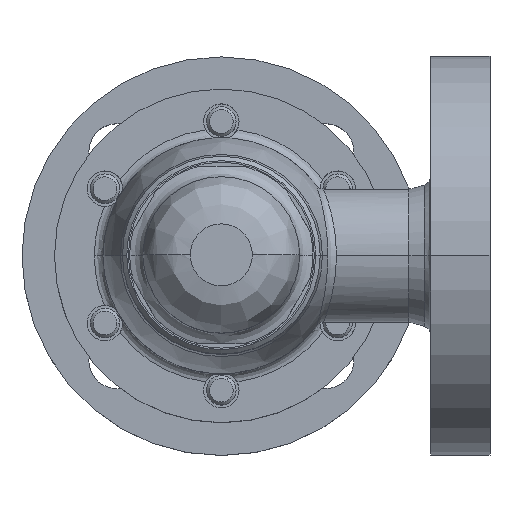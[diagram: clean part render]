
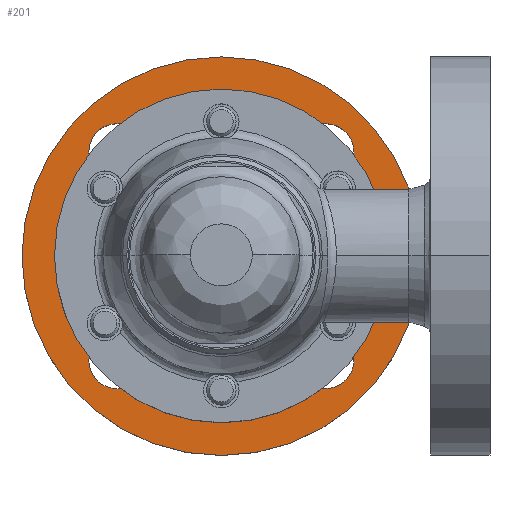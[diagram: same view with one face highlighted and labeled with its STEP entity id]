
A CAD part, top view. The second image highlights one B-rep face of the part: STEP entity #201.
In plain terms, the highlighted planar face has unit normal (0, 0, 1).
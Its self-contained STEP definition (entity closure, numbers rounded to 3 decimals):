
#201=ADVANCED_FACE('',(#424,#425,#426,#427,#428,#429),#423,.F.);
#423=PLANE('',#2034);
#424=FACE_OUTER_BOUND('',#2035,.T.);
#425=FACE_BOUND('',#2036,.T.);
#426=FACE_BOUND('',#2037,.T.);
#427=FACE_BOUND('',#2038,.T.);
#428=FACE_BOUND('',#2039,.T.);
#429=FACE_BOUND('',#2040,.T.);
#2031=CARTESIAN_POINT('',(145.,-126.913,-95.));
#2032=DIRECTION('',(0.,0.,-1.));
#2033=DIRECTION('',(-1.,0.,0.));
#2034=AXIS2_PLACEMENT_3D('',#2031,#2032,#2033);
#2035=EDGE_LOOP('',(#3370,#3371));
#2036=EDGE_LOOP('',(#3372,#3373));
#2037=EDGE_LOOP('',(#3374,#3375));
#2038=EDGE_LOOP('',(#3376,#3377));
#2039=EDGE_LOOP('',(#3378,#3379));
#2040=EDGE_LOOP('',(#3380,#3381));
#3370=ORIENTED_EDGE('',*,*,#4108,.F.);
#3371=ORIENTED_EDGE('',*,*,#4109,.F.);
#3372=ORIENTED_EDGE('',*,*,#4110,.T.);
#3373=ORIENTED_EDGE('',*,*,#4111,.T.);
#3374=ORIENTED_EDGE('',*,*,#4112,.T.);
#3375=ORIENTED_EDGE('',*,*,#4113,.T.);
#3376=ORIENTED_EDGE('',*,*,#4114,.T.);
#3377=ORIENTED_EDGE('',*,*,#4115,.T.);
#3378=ORIENTED_EDGE('',*,*,#4116,.T.);
#3379=ORIENTED_EDGE('',*,*,#4117,.T.);
#3380=ORIENTED_EDGE('',*,*,#4118,.T.);
#3381=ORIENTED_EDGE('',*,*,#4119,.T.);
#4108=EDGE_CURVE('',#4765,#4766,#4767,.T.);
#4109=EDGE_CURVE('',#4766,#4765,#4773,.T.);
#4110=EDGE_CURVE('',#4779,#4780,#4781,.T.);
#4111=EDGE_CURVE('',#4780,#4779,#4787,.T.);
#4112=EDGE_CURVE('',#4793,#4794,#4795,.T.);
#4113=EDGE_CURVE('',#4794,#4793,#4801,.T.);
#4114=EDGE_CURVE('',#4807,#4808,#4809,.T.);
#4115=EDGE_CURVE('',#4808,#4807,#4815,.T.);
#4116=EDGE_CURVE('',#4821,#4822,#4823,.T.);
#4117=EDGE_CURVE('',#4822,#4821,#4829,.T.);
#4118=EDGE_CURVE('',#4835,#4836,#4837,.T.);
#4119=EDGE_CURVE('',#4836,#4835,#4843,.T.);
#4765=VERTEX_POINT('',#7225);
#4766=VERTEX_POINT('',#7226);
#4767=CIRCLE('',#7230,67.5);
#4773=CIRCLE('',#7234,67.5);
#4779=VERTEX_POINT('',#7235);
#4780=VERTEX_POINT('',#7236);
#4781=CIRCLE('',#7240,9.5);
#4787=CIRCLE('',#7244,9.5);
#4793=VERTEX_POINT('',#7245);
#4794=VERTEX_POINT('',#7246);
#4795=CIRCLE('',#7250,9.5);
#4801=CIRCLE('',#7254,9.5);
#4807=VERTEX_POINT('',#7255);
#4808=VERTEX_POINT('',#7256);
#4809=CIRCLE('',#7260,9.5);
#4815=CIRCLE('',#7264,9.5);
#4821=VERTEX_POINT('',#7265);
#4822=VERTEX_POINT('',#7266);
#4823=CIRCLE('',#7270,9.5);
#4829=CIRCLE('',#7274,9.5);
#4835=VERTEX_POINT('',#7275);
#4836=VERTEX_POINT('',#7276);
#4837=CIRCLE('',#7280,31.302);
#4843=CIRCLE('',#7284,31.302);
#7225=CARTESIAN_POINT('',(67.5,0.,-95.));
#7226=CARTESIAN_POINT('',(-67.5,0.,-95.));
#7227=CARTESIAN_POINT('',(0.,0.,-95.));
#7228=DIRECTION('',(0.,0.,-1.));
#7229=DIRECTION('',(-1.,0.,0.));
#7230=AXIS2_PLACEMENT_3D('',#7227,#7228,#7229);
#7231=CARTESIAN_POINT('',(0.,0.,-95.));
#7232=DIRECTION('',(0.,0.,-1.));
#7233=DIRECTION('',(-1.,0.,0.));
#7234=AXIS2_PLACEMENT_3D('',#7231,#7232,#7233);
#7235=CARTESIAN_POINT('',(44.855,-35.355,-95.));
#7236=CARTESIAN_POINT('',(25.855,-35.355,-95.));
#7237=CARTESIAN_POINT('',(35.355,-35.355,-95.));
#7238=DIRECTION('',(0.,0.,-1.));
#7239=DIRECTION('',(1.,0.,0.));
#7240=AXIS2_PLACEMENT_3D('',#7237,#7238,#7239);
#7241=CARTESIAN_POINT('',(35.355,-35.355,-95.));
#7242=DIRECTION('',(0.,0.,-1.));
#7243=DIRECTION('',(1.,0.,0.));
#7244=AXIS2_PLACEMENT_3D('',#7241,#7242,#7243);
#7245=CARTESIAN_POINT('',(-25.855,-35.355,-95.));
#7246=CARTESIAN_POINT('',(-44.855,-35.355,-95.));
#7247=CARTESIAN_POINT('',(-35.355,-35.355,-95.));
#7248=DIRECTION('',(0.,0.,-1.));
#7249=DIRECTION('',(1.,0.,0.));
#7250=AXIS2_PLACEMENT_3D('',#7247,#7248,#7249);
#7251=CARTESIAN_POINT('',(-35.355,-35.355,-95.));
#7252=DIRECTION('',(0.,0.,-1.));
#7253=DIRECTION('',(1.,0.,0.));
#7254=AXIS2_PLACEMENT_3D('',#7251,#7252,#7253);
#7255=CARTESIAN_POINT('',(44.855,35.355,-95.));
#7256=CARTESIAN_POINT('',(25.855,35.355,-95.));
#7257=CARTESIAN_POINT('',(35.355,35.355,-95.));
#7258=DIRECTION('',(0.,0.,-1.));
#7259=DIRECTION('',(1.,0.,0.));
#7260=AXIS2_PLACEMENT_3D('',#7257,#7258,#7259);
#7261=CARTESIAN_POINT('',(35.355,35.355,-95.));
#7262=DIRECTION('',(0.,0.,-1.));
#7263=DIRECTION('',(1.,0.,0.));
#7264=AXIS2_PLACEMENT_3D('',#7261,#7262,#7263);
#7265=CARTESIAN_POINT('',(-25.855,35.355,-95.));
#7266=CARTESIAN_POINT('',(-44.855,35.355,-95.));
#7267=CARTESIAN_POINT('',(-35.355,35.355,-95.));
#7268=DIRECTION('',(0.,0.,-1.));
#7269=DIRECTION('',(1.,0.,0.));
#7270=AXIS2_PLACEMENT_3D('',#7267,#7268,#7269);
#7271=CARTESIAN_POINT('',(-35.355,35.355,-95.));
#7272=DIRECTION('',(0.,0.,-1.));
#7273=DIRECTION('',(1.,0.,0.));
#7274=AXIS2_PLACEMENT_3D('',#7271,#7272,#7273);
#7275=CARTESIAN_POINT('',(-31.302,0.,-95.));
#7276=CARTESIAN_POINT('',(31.302,0.,-95.));
#7277=CARTESIAN_POINT('',(0.,0.,-95.));
#7278=DIRECTION('',(0.,0.,-1.));
#7279=DIRECTION('',(-1.,0.,0.));
#7280=AXIS2_PLACEMENT_3D('',#7277,#7278,#7279);
#7281=CARTESIAN_POINT('',(0.,0.,-95.));
#7282=DIRECTION('',(0.,0.,-1.));
#7283=DIRECTION('',(-1.,0.,0.));
#7284=AXIS2_PLACEMENT_3D('',#7281,#7282,#7283);
